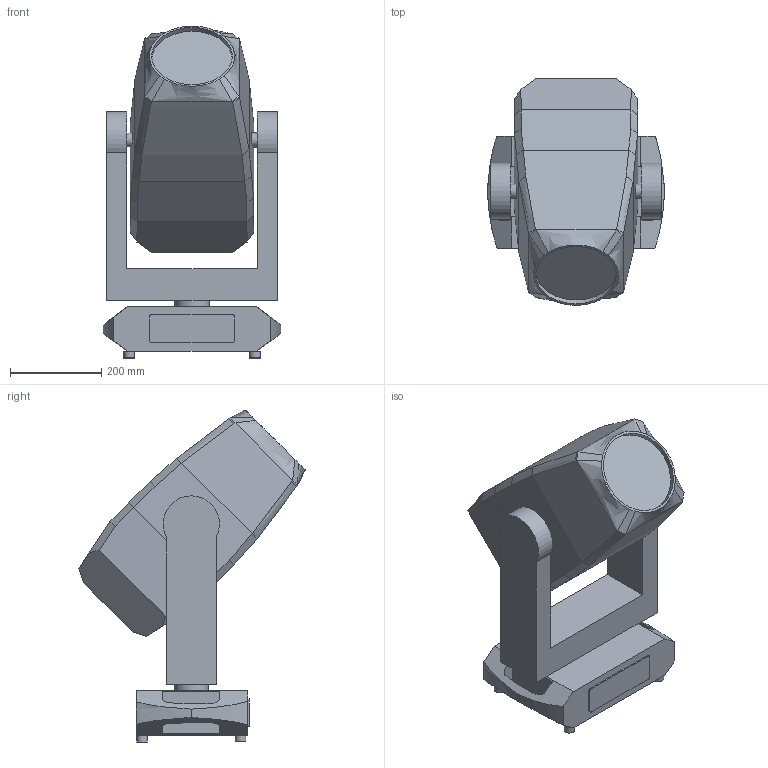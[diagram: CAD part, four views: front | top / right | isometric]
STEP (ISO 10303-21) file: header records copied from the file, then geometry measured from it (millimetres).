
FILE_DESCRIPTION(/* description */ (''),/* implementation_level */ '2;1');
FILE_NAME(/* name */ 'MAVERICK STORM 1 FLEX_45.stp',/* time_stamp */ '2024-12-27T16:13:38-05:00',/* author */ ('chenry'),/* organization */ (''),/* preprocessor_version */ 'ST-DEVELOPER v20',/* originating_system */ 'Autodesk Inventor 2024',/* authorisation */ '');
FILE_SCHEMA (('AUTOMOTIVE_DESIGN { 1 0 10303 214 3 1 1 }'));
Length unit declared in the file: millimetre
Products named in the file (4): MIP-520_LED_HYBRID_1_ASM; BASE; Arm; Head
Assembly tree (3 placements, depth 2):
  MIP-520_LED_HYBRID_1_ASM
    BASE
    Arm
    Head
Bounding box: 388.81 x 496.8 x 727.77 mm (x, y, z)
Volume: 44610672.1 mm3; surface area: 1232945.7 mm2
Topology: 3 solids, 3 shells, 119 faces, 290 edges, 184 vertices
Faces by surface type: plane 69, bspline 34, cylinder 16
Full cylindrical faces by diameter (mm): 23.335 x4, 30.951 x3, 74.8 x2, 176.785 x1
Entity records: 27351 total; most frequent: CARTESIAN_POINT 24567, ORIENTED_EDGE 580, DIRECTION 457, EDGE_CURVE 290, LINE 193, VECTOR 193, VERTEX_POINT 184, AXIS2_PLACEMENT_3D 132
